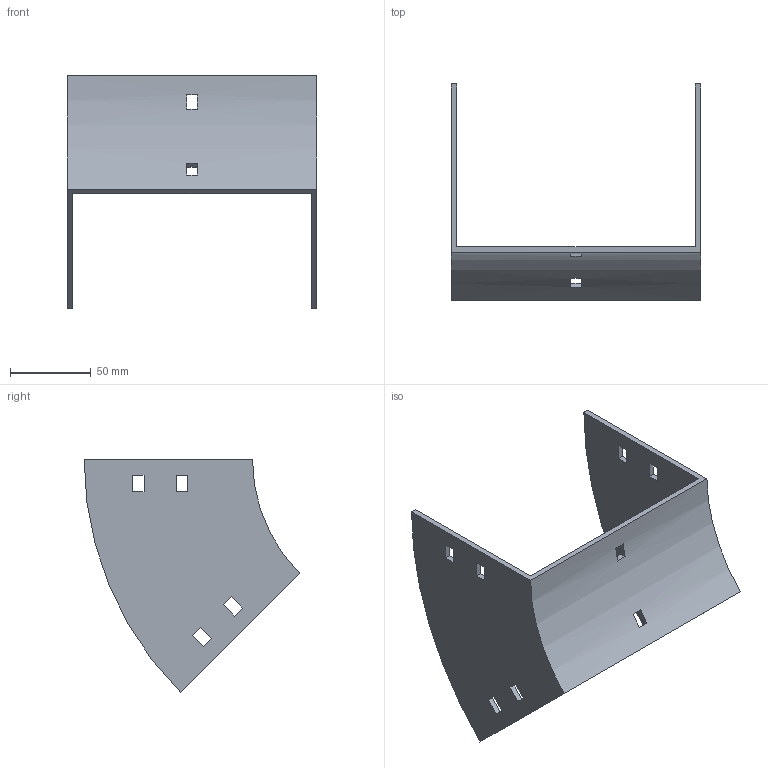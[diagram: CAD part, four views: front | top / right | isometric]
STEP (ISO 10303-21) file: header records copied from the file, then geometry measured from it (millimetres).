
FILE_DESCRIPTION (( 'STEP AP214' ), '1' );
FILE_NAME ('34B1D150.step', '2025-02-21T09:27:19', ( '' ), ( '' ), 'SwSTEP 2.0', 'SolidWorks 2023', '' );
FILE_SCHEMA (( 'AUTOMOTIVE_DESIGN' ));
Length unit declared in the file: millimetre
Products named in the file (1): 34B1D150
Bounding box: 154 x 133.29 x 144.25 mm (x, y, z)
Volume: 125649.8 mm3; surface area: 76568.8 mm2
Topology: 1 solids, 1 shells, 50 faces, 144 edges, 96 vertices
Faces by surface type: plane 46, cylinder 4
Entity records: 1687 total; most frequent: CARTESIAN_POINT 291, ORIENTED_EDGE 288, DIRECTION 262, EDGE_CURVE 144, LINE 128, VECTOR 128, VERTEX_POINT 96, EDGE_LOOP 70
